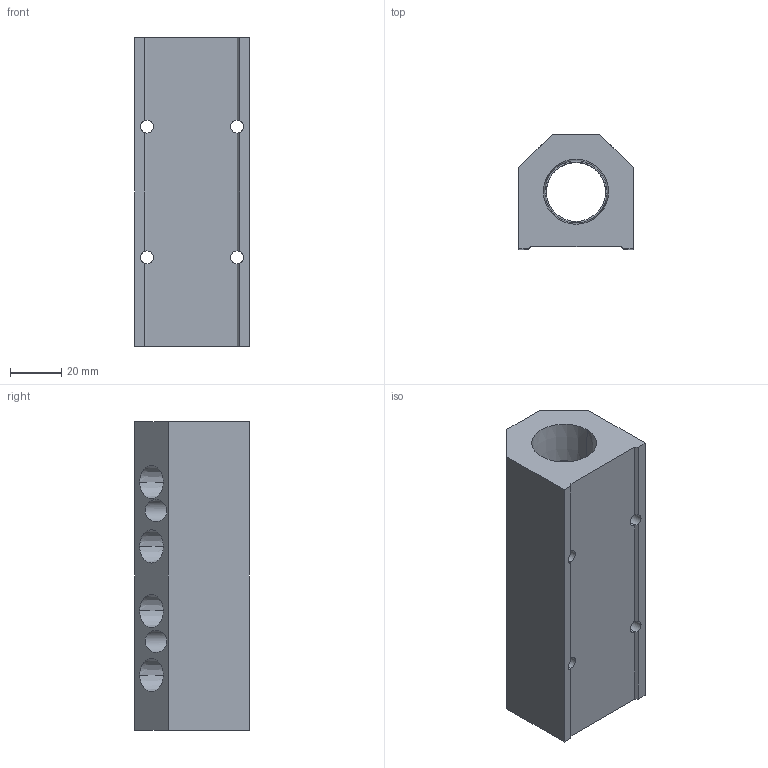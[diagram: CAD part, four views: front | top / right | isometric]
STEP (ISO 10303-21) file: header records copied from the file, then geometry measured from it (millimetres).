
FILE_DESCRIPTION (( 'STEP AP214' ), '1' );
FILE_NAME ('ALM4BD-N4N12-120R.step', '2022-02-06T14:06:05', ( '' ), ( '' ), 'SwSTEP 2.0', 'SolidWorks 2020', '' );
FILE_SCHEMA (( 'AUTOMOTIVE_DESIGN' ));
Length unit declared in the file: millimetre
Products named in the file (1): ALM4BD-N4N12-120R
Bounding box: 44.5 x 44.5 x 120 mm (x, y, z)
Volume: 146296.7 mm3; surface area: 34960 mm2
Topology: 1 solids, 1 shells, 317 faces, 845 edges, 558 vertices
Faces by surface type: plane 218, bspline 47, cone 28, cylinder 24
Entity records: 16594 total; most frequent: CARTESIAN_POINT 6200, ORIENTED_EDGE 1690, DIRECTION 1309, EDGE_CURVE 845, VECTOR 623, LINE 623, VERTEX_POINT 558, EDGE_LOOP 371
